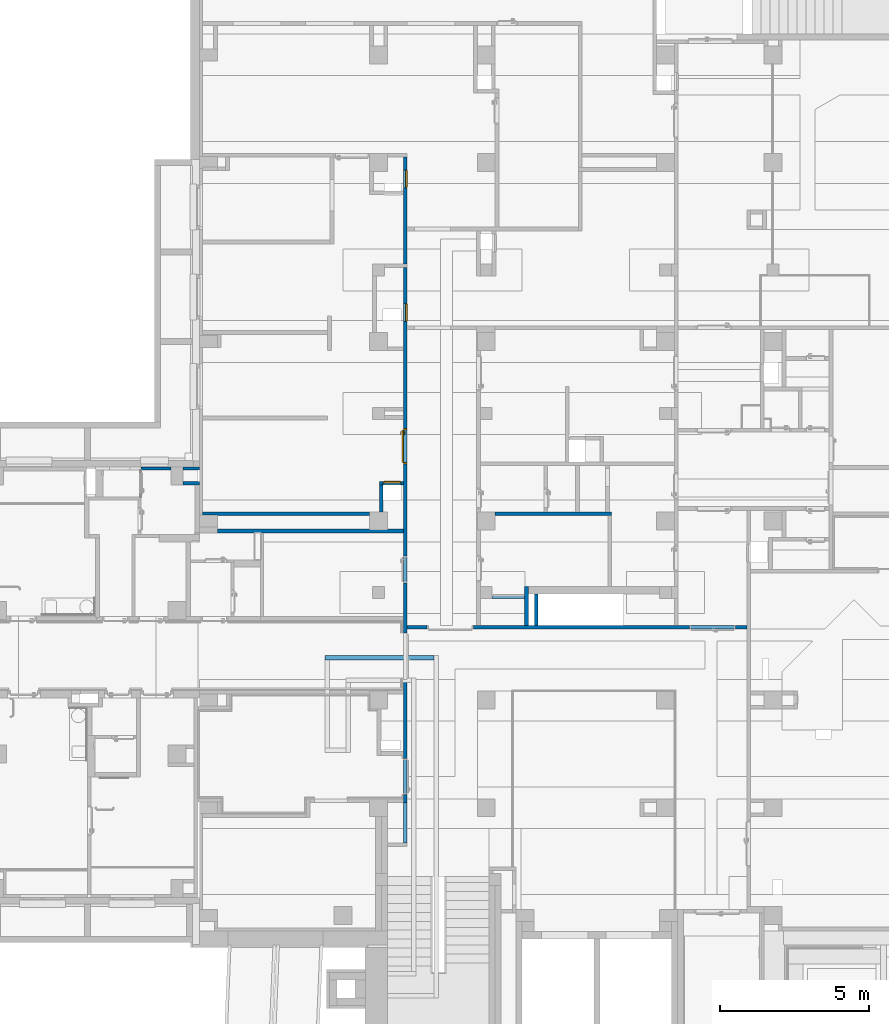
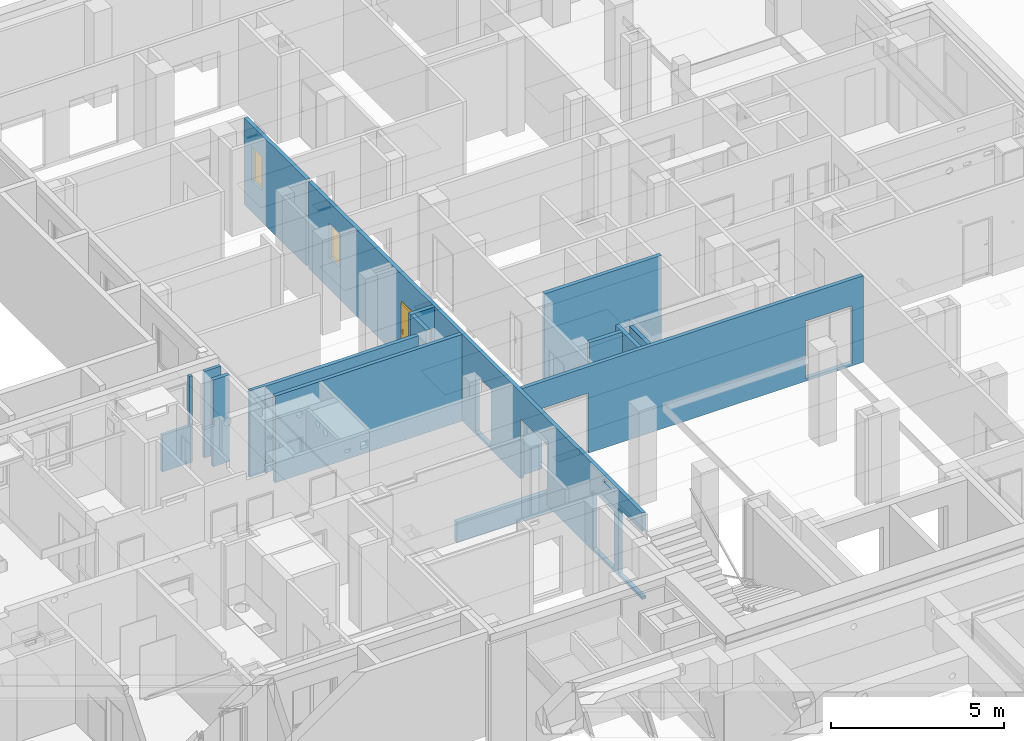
# One storey, part 29 of 84: 14 walls, 3 windows, 1 door, 13 openings.
"""IFC4 building model written with IfcOpenShell, lengths in metres."""

from ifc_helpers import new_model, entity, si_unit, converted_unit, derived_unit, frame, frame_2d, origin, origin_with_axes, place, context, subcontext, project, spatial, polyline, rectangle, outline, extrude, closed_shell, open_shell, faceted_brep, surface_model, source, transform, mapped, material, layer, layer_set, layer_usage, type_object, element, fill, save


model = new_model("IFC4")

# Units and contexts
model_context = context("Model", 3, precision=1e-05, world=origin())
body_context = subcontext(model_context, "Body", "Model", "MODEL_VIEW")
ifc_project = project(units=[si_unit("LENGTHUNIT", "METRE"), si_unit("AREAUNIT", "SQUARE_METRE"), si_unit("VOLUMEUNIT", "CUBIC_METRE"), si_unit("MASSUNIT", "GRAM", prefix="KILO"), converted_unit("PLANEANGLEUNIT", "DEGREE", entity("IfcPlaneAngleMeasure", 0.0174532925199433), si_unit("PLANEANGLEUNIT", "RADIAN"), dimensions=[0, 0, 0, 0, 0, 0, 0]), derived_unit("THERMALTRANSMITTANCEUNIT", [(si_unit("POWERUNIT", "WATT"), 1), (si_unit("THERMODYNAMICTEMPERATUREUNIT", "KELVIN"), -1), (si_unit("LENGTHUNIT", "METRE"), -2)]), derived_unit("VOLUMETRICFLOWRATEUNIT", [(si_unit("LENGTHUNIT", "METRE"), 3), (converted_unit("TIMEUNIT", "hour", entity("IfcTimeMeasure", 3600.0), si_unit("TIMEUNIT", "SECOND"), dimensions=[0, 0, 1, 0, 0, 0, 0]), -1), (si_unit("LENGTHUNIT", "METRE"), -1)])], contexts=[model_context])

# Site, building, storey
site_placement = place(None, origin())
site = spatial("IfcSite", under=ifc_project, at=site_placement, Name="3. ASŘ", CompositionType="ELEMENT")
building_placement = place(site_placement, origin())
building = spatial("IfcBuilding", under=site, at=building_placement, Name="Pavilon C", CompositionType="ELEMENT")
storey_placement = place(building_placement, frame((0.0, 0.0, -3.3)))
storey = spatial("IfcBuildingStorey", under=building, at=storey_placement, Name="Půdorys 1.PP", CompositionType="ELEMENT", Elevation=-3.3)

# Walls
ifc_material_1 = material(Name="PÓROBETONOVÉ ZDIVO")
ifc_layer_1 = layer(ifc_material_1, 0.1)
ifc_layer_set_1 = layer_set([ifc_layer_1])
ifc_layer_usage_1 = layer_usage(ifc_layer_set_1, "AXIS2", "POSITIVE", 0.0)
wall_1_placement = place(storey_placement, frame((24.75, 15.0, -0.1), z_axis=(0.0, 0.0, 1.0), x_axis=(-1.0, 0.0, 0.0)))
element("IfcWall", 1, at=wall_1_placement, inside=storey, material=ifc_layer_usage_1, Name="PÓROBETONOVÉ ZDIVO", context=body_context, shape_type="SweptSolid", body=[
    extrude(rectangle(XDim=0.55, YDim=0.1, at=frame_2d((0.275, 0.05), x_axis=(1.0, 0.0))), origin_with_axes(), (0.0, 0.0, 1.0), 3.05),
])
ifc_material_2 = material(Name="ZDIVO Z CDm")
ifc_layer_2 = layer(ifc_material_2, 0.125)
ifc_layer_set_2 = layer_set([ifc_layer_2])
ifc_layer_usage_2 = layer_usage(ifc_layer_set_2, "AXIS2", "POSITIVE", 0.0)
wall_2_placement = place(storey_placement, frame((24.2, 14.4, -0.1)))
element("IfcWall", 2, at=wall_2_placement, inside=storey, material=ifc_layer_usage_2, Name="ZDIVO Z CDm", context=body_context, shape_type="SweptSolid", body=[
    extrude(rectangle(XDim=0.550000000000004, YDim=0.125, at=frame_2d((0.275000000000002, 0.0625), x_axis=(1.0, 0.0))), origin_with_axes(), (0.0, 0.0, 1.0), 3.05),
])
ifc_material_3 = material(Name="ZELEZOBETONOVÁ KCE")
ifc_layer_3 = layer(ifc_material_3, 0.15)
ifc_layer_set_3 = layer_set([ifc_layer_3])
ifc_layer_usage_3 = layer_usage(ifc_layer_set_3, "AXIS2", "POSITIVE", 0.0)
wall_3_placement = place(storey_placement, frame((28.95, 8.55, -0.9)))
element("IfcWall", 3, at=wall_3_placement, inside=storey, material=ifc_layer_usage_3, Name="ZELEZOBETONOVÁ KCE", context=body_context, shape_type="SweptSolid", body=[
    extrude(rectangle(XDim=3.65, YDim=0.15, at=frame_2d((1.825, 0.075), x_axis=(1.0, 0.0))), origin_with_axes(), (0.0, 0.0, 1.0), 0.73),
])
ifc_material_4 = material(Name="ZDIVO Z CDm")
ifc_layer_4 = layer(ifc_material_4, 0.125)
ifc_layer_set_4 = layer_set([ifc_layer_4])
ifc_layer_usage_4 = layer_usage(ifc_layer_set_4, "AXIS2", "POSITIVE", 0.0)
wall_4_placement = place(storey_placement, frame((35.7625, 9.69999999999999, -0.1), z_axis=(0.0, 0.0, 1.0), x_axis=(0.0, 1.0, 0.0)))
element("IfcWall", 4, at=wall_4_placement, inside=storey, material=ifc_layer_usage_4, Name="ZDIVO Z CDm", context=body_context, shape_type="SweptSolid", body=[
    extrude(rectangle(XDim=1.3, YDim=0.125, at=frame_2d((0.65, 0.0625), x_axis=(1.0, 0.0))), origin_with_axes(), (0.0, 0.0, 1.0), 3.05),
])

# Wall, openings
ifc_material_5 = material(Name="ZDIVO Z CDm")
ifc_layer_5 = layer(ifc_material_5, 0.125)
ifc_layer_set_5 = layer_set([ifc_layer_5])
ifc_layer_usage_5 = layer_usage(ifc_layer_set_5, "AXIS2", "POSITIVE", 0.0)
wall_5_placement = place(storey_placement, frame((43.075, 9.69999999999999, -0.1), z_axis=(0.0, 0.0, 1.0), x_axis=(-1.0, 0.0, 0.0)))
wall_5 = element("IfcWall", 5, at=wall_5_placement, inside=storey, material=ifc_layer_usage_5, Name="ZDIVO Z CDm", context=body_context, shape_type="SweptSolid", body=[
    extrude(rectangle(XDim=11.375, YDim=0.125, at=frame_2d((5.6875, 0.0625), x_axis=(1.0, 0.0))), origin_with_axes(), (0.0, 0.0, 1.0), 3.05),
])
opening_1_placement = place(wall_5_placement, frame((10.7, 0.125, 0.0), z_axis=(0.0, -1.0, 0.0), x_axis=(0.0, 0.0, 1.0)))
element("IfcOpeningElement", 6, at=opening_1_placement, cuts=wall_5, Name="Dveřní otvor", ObjectType="Opening", context=body_context, shape_type="SweptSolid", body=[
    extrude(outline(polyline([(0.0, 1.55), (2.12, 1.55), (2.12, 0.0), (0.0, 0.0), (0.0, 1.55)])), origin_with_axes(), (0.0, 0.0, 1.0), 0.125),
])
opening_2_placement = place(wall_5_placement, frame((0.375, 0.0, 0.1), z_axis=(0.0, 1.0, 0.0), x_axis=(0.0, 0.0, 1.0)))
element("IfcOpeningElement", 7, at=opening_2_placement, cuts=wall_5, Name="Dveřní otvor", ObjectType="Opening", context=body_context, shape_type="SweptSolid", body=[
    extrude(outline(polyline([(0.0, 1.55), (2.02, 1.55), (2.02, 0.0), (0.0, 0.0), (0.0, 1.55)])), origin_with_axes(), (0.0, 0.0, 1.0), 0.125),
])

# Walls
ifc_material_6 = material(Name="ZDIVO Z CDm")
ifc_layer_6 = layer(ifc_material_6, 0.125)
ifc_layer_set_6 = layer_set([ifc_layer_6])
ifc_layer_usage_6 = layer_usage(ifc_layer_set_6, "AXIS2", "POSITIVE", 0.0)
wall_6_placement = place(storey_placement, frame((35.9625, 10.75, -0.1), z_axis=(0.0, 0.0, 1.0), x_axis=(0.0, -1.0, 0.0)))
element("IfcWall", 8, at=wall_6_placement, inside=storey, material=ifc_layer_usage_6, Name="ZDIVO Z CDm", context=body_context, shape_type="SweptSolid", body=[
    extrude(rectangle(XDim=1.05, YDim=0.125, at=frame_2d((0.525, 0.0625), x_axis=(1.0, 0.0))), origin_with_axes(), (0.0, 0.0, 1.0), 3.05),
])
ifc_material_7 = material(Name="ZDIVO Z CDm")
ifc_layer_7 = layer(ifc_material_7, 0.125)
ifc_layer_set_7 = layer_set([ifc_layer_7])
ifc_layer_usage_7 = layer_usage(ifc_layer_set_7, "AXIS2", "POSITIVE", 0.0)
wall_7_placement = place(storey_placement, frame((30.45, 13.5, -0.1), z_axis=(0.0, 0.0, 1.0), x_axis=(-1.0, 0.0, 0.0)))
element("IfcWall", 9, at=wall_7_placement, inside=storey, material=ifc_layer_usage_7, Name="ZDIVO Z CDm", context=body_context, shape_type="SweptSolid", body=[
    extrude(outline(polyline([(-5.59999999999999, -0.125), (0.0, -0.125), (0.0, -0.025), (-0.499999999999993, -0.025), (-0.499999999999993, 0.0), (-5.59999999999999, 0.0), (-5.59999999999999, -0.125)])), frame((5.59999999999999, 0.125, 0.0), z_axis=(0.0, 0.0, 1.0), x_axis=(1.0, 0.0, 0.0)), (0.0, 0.0, 1.0), 3.05),
])

# Wall, opening, window
ifc_material_8 = material(Name="ZDIVO Z CDm")
ifc_layer_8 = layer(ifc_material_8, 0.125)
ifc_layer_set_8 = layer_set([ifc_layer_8])
ifc_layer_usage_8 = layer_usage(ifc_layer_set_8, "AXIS2", "POSITIVE", 0.0)
wall_8_placement = place(storey_placement, frame((30.775, 14.4, -0.1)))
wall_8 = element("IfcWall", 10, at=wall_8_placement, inside=storey, material=ifc_layer_usage_8, Name="ZDIVO Z CDm", context=body_context, shape_type="SweptSolid", body=[
    extrude(rectangle(XDim=0.799999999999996, YDim=0.125, at=frame_2d((0.399999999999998, 0.0625), x_axis=(1.0, 0.0))), origin_with_axes(), (0.0, 0.0, 1.0), 3.05),
])
opening_3_placement = place(wall_8_placement, frame((0.725, 0.125, 1.1), z_axis=(0.0, -1.0, 0.0), x_axis=(0.0, 0.0, 1.0)))
opening_3 = element("IfcOpeningElement", 11, at=opening_3_placement, cuts=wall_8, Name="Okenní otvor", ObjectType="Opening", context=body_context, shape_type="SweptSolid", body=[
    extrude(outline(polyline([(0.0, 0.6), (1.2, 0.6), (1.2, 0.0), (0.0, 0.0), (0.0, 0.6)])), origin_with_axes(), (0.0, 0.0, 1.0), 0.125),
])
shared_shape_1 = source(origin_with_axes(), body_context, "Body", "Brep", [
    faceted_brep([(0.0, 0.0600000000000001, 1.2), (0.0, 0.06, 4.91096680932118e-19), (0.02, 0.06, 4.91096680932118e-19), (0.02, 0.0600000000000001, 1.2), (0.0, 0.01, 6.61433067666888e-18), (0.0, 0.0100000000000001, 1.2), (0.02, 0.0100000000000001, 1.2), (0.02, 0.01, 6.61433067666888e-18)], [[[0, 1, 2, 3]], [[4, 5, 6, 7]], [[1, 0, 5, 4]], [[2, 1, 4, 7]], [[3, 2, 7, 6]], [[0, 3, 6, 5]]], orient=[[False], [False], [False], [False], [False], [False]]),
    faceted_brep([(0.58, 0.0600000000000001, 1.2), (0.58, 0.06, 4.91096680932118e-19), (0.6, 0.06, 4.91096680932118e-19), (0.6, 0.0600000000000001, 1.2), (0.58, 0.01, 6.61433067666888e-18), (0.58, 0.0100000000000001, 1.2), (0.6, 0.0100000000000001, 1.2), (0.6, 0.01, 6.61433067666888e-18)], [[[0, 1, 2, 3]], [[4, 5, 6, 7]], [[1, 0, 5, 4]], [[2, 1, 4, 7]], [[3, 2, 7, 6]], [[0, 3, 6, 5]]], orient=[[False], [False], [False], [False], [False], [False]]),
    faceted_brep([(0.02, 0.06, 0.02), (0.02, 0.06, 4.91096680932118e-19), (0.58, 0.06, 4.91096680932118e-19), (0.58, 0.06, 0.02), (0.02, 0.01, 6.61433067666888e-18), (0.02, 0.01, 0.02), (0.58, 0.01, 0.02), (0.58, 0.01, 6.61433067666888e-18)], [[[0, 1, 2, 3]], [[4, 5, 6, 7]], [[1, 0, 5, 4]], [[2, 1, 4, 7]], [[3, 2, 7, 6]], [[0, 3, 6, 5]]], orient=[[False], [False], [False], [False], [False], [False]]),
    faceted_brep([(0.02, 0.0600000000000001, 1.2), (0.02, 0.0600000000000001, 1.18), (0.58, 0.0600000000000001, 1.18), (0.58, 0.0600000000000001, 1.2), (0.02, 0.0100000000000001, 1.18), (0.02, 0.0100000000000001, 1.2), (0.58, 0.0100000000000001, 1.2), (0.58, 0.0100000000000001, 1.18)], [[[0, 1, 2, 3]], [[4, 5, 6, 7]], [[1, 0, 5, 4]], [[2, 1, 4, 7]], [[3, 2, 7, 6]], [[0, 3, 6, 5]]], orient=[[False], [False], [False], [False], [False], [False]]),
    faceted_brep([(0.02, 0.0100000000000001, 1.18), (0.02, 0.01, 0.02), (0.58, 0.01, 0.02), (0.58, 0.0100000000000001, 1.18), (0.02, 0.0, 0.02), (0.02, 1.4210854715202e-16, 1.18), (0.58, 1.4210854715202e-16, 1.18), (0.58, 0.0, 0.02)], [[[0, 1, 2, 3]], [[4, 5, 6, 7]], [[1, 0, 5, 4]], [[2, 1, 4, 7]], [[3, 2, 7, 6]], [[0, 3, 6, 5]]], orient=[[False], [False], [False], [False], [False], [False]]),
])
window_1_placement = place(opening_3_placement, frame((0.0, 0.0, -0.01), z_axis=(1.0, 0.0, 0.0), x_axis=(0.0, 1.0, -1.22464679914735e-16)))
window_1 = element("IfcWindow", 12, at=window_1_placement, inside=storey, Name="O01", OverallHeight=1.2, OverallWidth=0.6, PartitioningType="USERDEFINED", PredefinedType="WINDOW", context=body_context, shape_type="MappedRepresentation", body=[
    mapped(shared_shape_1, transform((0.0, 0.0, 0.0), x_axis=(1.0, 0.0, 0.0), y_axis=(0.0, 1.0, 0.0), z_axis=(0.0, 0.0, 1.0), scale=1.0)),
])
fill(opening_3, window_1)

# Walls
ifc_material_9 = material(Name="ZDIVO Z CDm")
ifc_layer_9 = layer(ifc_material_9, 0.125)
ifc_layer_set_9 = layer_set([ifc_layer_9])
ifc_layer_usage_9 = layer_usage(ifc_layer_set_9, "AXIS2", "POSITIVE", 0.0)
wall_9_placement = place(storey_placement, frame((30.9, 13.5, -0.1), z_axis=(0.0, 0.0, 1.0), x_axis=(0.0, 1.0, 0.0)))
element("IfcWall", 13, at=wall_9_placement, inside=storey, material=ifc_layer_usage_9, Name="ZDIVO Z CDm", context=body_context, shape_type="SweptSolid", body=[
    extrude(rectangle(XDim=0.9, YDim=0.125, at=frame_2d((0.45, 0.0625), x_axis=(1.0, 0.0))), origin_with_axes(), (0.0, 0.0, 1.0), 3.05),
])
ifc_material_10 = material(Name="ZDIVO Z CDm")
ifc_layer_10 = layer(ifc_material_10, 0.125)
ifc_layer_set_10 = layer_set([ifc_layer_10])
ifc_layer_usage_10 = layer_usage(ifc_layer_set_10, "AXIS2", "POSITIVE", 0.0)
wall_10_placement = place(storey_placement, frame((31.575, 12.925, -0.1), z_axis=(0.0, 0.0, 1.0), x_axis=(-1.0, 0.0, 0.0)))
element("IfcWall", 14, at=wall_10_placement, inside=storey, material=ifc_layer_usage_10, Name="ZDIVO Z CDm", context=body_context, shape_type="SweptSolid", body=[
    extrude(rectangle(XDim=6.225, YDim=0.125, at=frame_2d((3.1125, 0.0625), x_axis=(1.0, 0.0))), origin_with_axes(), (0.0, 0.0, 1.0), 3.05),
])
ifc_material_11 = material(Name="ZDIVO Z CDm")
ifc_layer_11 = layer(ifc_material_11, 0.125)
ifc_layer_set_11 = layer_set([ifc_layer_11])
ifc_layer_usage_11 = layer_usage(ifc_layer_set_11, "AXIS2", "POSITIVE", 0.0)
wall_11_placement = place(storey_placement, frame((34.65, 13.375, -0.1)))
element("IfcWall", 15, at=wall_11_placement, inside=storey, material=ifc_layer_usage_11, Name="ZDIVO Z CDm", context=body_context, shape_type="SweptSolid", body=[
    extrude(rectangle(XDim=3.9, YDim=0.125, at=frame_2d((1.95, 0.0625), x_axis=(1.0, 0.0))), origin_with_axes(), (0.0, 0.0, 1.0), 3.05),
])

# Wall, opening
ifc_material_12 = material(Name="ZDIVO Z CDm")
ifc_layer_12 = layer(ifc_material_12, 0.125)
ifc_layer_set_12 = layer_set([ifc_layer_12])
ifc_layer_usage_12 = layer_usage(ifc_layer_set_12, "AXIS2", "POSITIVE", 0.0)
wall_12_placement = place(storey_placement, frame((34.55, 10.6, -0.1)))
wall_12 = element("IfcWall", 16, at=wall_12_placement, inside=storey, material=ifc_layer_usage_12, Name="ZDIVO Z CDm", context=body_context, shape_type="SweptSolid", body=[
    extrude(rectangle(XDim=1.0875, YDim=0.125, at=frame_2d((0.54375, 0.0625), x_axis=(1.0, 0.0))), origin_with_axes(), (0.0, 0.0, 1.0), 3.05),
])
opening_4_placement = place(wall_12_placement, frame((1.0875, 0.125, 1.1), z_axis=(0.0, -1.0, 0.0), x_axis=(0.0, 0.0, 1.0)))
element("IfcOpeningElement", 17, at=opening_4_placement, cuts=wall_12, Name="Okenní otvor", ObjectType="Opening", context=body_context, shape_type="SweptSolid", body=[
    extrude(outline(polyline([(0.0, 1.0875), (1.2, 1.0875), (1.2, 0.0), (0.0, 0.0), (0.0, 1.0875)])), origin_with_axes(), (0.0, 0.0, 1.0), 0.125),
])

# Wall, openings, door, windows
ifc_material_13 = material(Name="ZDIVO Z CDm")
wall_13_placement = place(storey_placement, frame((31.575, 25.375, -0.1), z_axis=(0.0, 0.0, 1.0), x_axis=(0.0, -1.0, 0.0)))
wall_13 = element("IfcWall", 18, at=wall_13_placement, inside=storey, material=ifc_material_13, Name="ZDIVO Z CDm", context=body_context, shape_type="SweptSolid", body=[
    extrude(rectangle(XDim=19.25, YDim=0.125, at=frame_2d((-9.625, -0.0625), x_axis=(-1.0, 0.0))), frame((22.95, 0.125, 0.0), z_axis=(0.0, 0.0, 1.0), x_axis=(1.0, 0.0, 0.0)), (0.0, 0.0, 1.0), 3.05),
    extrude(rectangle(XDim=3.575, YDim=0.125, at=frame_2d((1.7875, 0.0625), x_axis=(1.0, 0.0))), origin_with_axes(), (0.0, 0.0, 1.0), 3.05),
])
opening_5_placement = place(wall_13_placement, frame((15.925, 0.0, 0.0), z_axis=(0.0, 1.0, 0.0), x_axis=(0.0, 0.0, 1.0)))
element("IfcOpeningElement", 19, at=opening_5_placement, cuts=wall_13, Name="Dveřní otvor", ObjectType="Opening", context=body_context, shape_type="SweptSolid", body=[
    extrude(outline(polyline([(0.0, 1.55), (2.12, 1.55), (2.12, 0.0), (0.0, 0.0), (0.0, 1.55)])), origin_with_axes(), (0.0, 0.0, 1.0), 0.125),
])
opening_6_placement = place(wall_13_placement, frame((22.95, 0.125, 0.1), z_axis=(0.0, -1.0, 0.0), x_axis=(0.0, 0.0, 1.0)))
element("IfcOpeningElement", 20, at=opening_6_placement, cuts=wall_13, Name="Dveřní otvor", ObjectType="Opening", context=body_context, shape_type="SweptSolid", body=[
    extrude(outline(polyline([(0.0, 1.35), (2.3, 1.35), (2.3, 0.0), (0.0, 0.0), (0.0, 1.35)])), origin_with_axes(), (0.0, 0.0, 1.0), 0.125),
])
opening_7_placement = place(wall_13_placement, frame((9.07500000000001, 0.0, 0.1), z_axis=(0.0, 1.0, 0.0), x_axis=(0.0, 0.0, 1.0)))
opening_7 = element("IfcOpeningElement", 21, at=opening_7_placement, cuts=wall_13, Name="Dveřní otvor", ObjectType="Opening", context=body_context, shape_type="SweptSolid", body=[
    extrude(outline(polyline([(0.0, 1.2), (2.02, 1.2), (2.02, 0.0), (0.0, 0.0), (0.0, 1.2)])), origin_with_axes(), (0.0, 0.0, 1.0), 0.125),
])
opening_8_placement = place(wall_13_placement, frame((13.35, 0.0, 0.1), z_axis=(0.0, 1.0, 0.0), x_axis=(0.0, 0.0, 1.0)))
element("IfcOpeningElement", 22, at=opening_8_placement, cuts=wall_13, Name="Dveřní otvor", ObjectType="Opening", context=body_context, shape_type="SweptSolid", body=[
    extrude(outline(polyline([(0.0, 0.9), (2.02, 0.9), (2.02, 0.0), (0.0, 0.0), (0.0, 0.9)])), origin_with_axes(), (0.0, 0.0, 1.0), 0.125),
])
opening_9_placement = place(wall_13_placement, frame((1.025, 0.125, 1.1), z_axis=(0.0, -1.0, 0.0), x_axis=(0.0, 0.0, 1.0)))
opening_9 = element("IfcOpeningElement", 23, at=opening_9_placement, cuts=wall_13, Name="Okenní otvor", ObjectType="Opening", context=body_context, shape_type="SweptSolid", body=[
    extrude(outline(polyline([(0.0, 0.6), (1.2, 0.6), (1.2, 0.0), (0.0, 0.0), (0.0, 0.6)])), origin_with_axes(), (0.0, 0.0, 1.0), 0.125),
])
opening_10_placement = place(wall_13_placement, frame((5.5, 0.125, 1.1), z_axis=(0.0, -1.0, 0.0), x_axis=(0.0, 0.0, 1.0)))
opening_10 = element("IfcOpeningElement", 24, at=opening_10_placement, cuts=wall_13, Name="Okenní otvor", ObjectType="Opening", context=body_context, shape_type="SweptSolid", body=[
    extrude(outline(polyline([(0.0, 0.6), (1.2, 0.6), (1.2, 0.0), (0.0, 0.0), (0.0, 0.6)])), origin_with_axes(), (0.0, 0.0, 1.0), 0.125),
])
opening_11_placement = place(wall_13_placement, frame((21.325, 0.125, 0.1), z_axis=(0.0, -1.0, 0.0), x_axis=(0.0, 0.0, 1.0)))
element("IfcOpeningElement", 25, at=opening_11_placement, cuts=wall_13, Name="Dveřní otvor", ObjectType="Opening", context=body_context, shape_type="SweptSolid", body=[
    extrude(outline(polyline([(0.0, 1.2), (2.02, 1.2), (2.02, 0.0), (0.0, 0.0), (0.0, 1.2)])), origin_with_axes(), (0.0, 0.0, 1.0), 0.125),
])
opening_12_placement = place(wall_13_placement, frame((21.3498613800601, 0.125, 2.8), z_axis=(0.0, -1.0, 0.0), x_axis=(0.0, 0.0, 1.0)))
element("IfcOpeningElement", 26, at=opening_12_placement, cuts=wall_13, Name="UT", ObjectType="Opening", context=body_context, shape_type="SweptSolid", body=[
    extrude(outline(polyline([(0.0, 0.599999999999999), (0.15, 0.599999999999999), (0.15, 0.0), (0.0, 0.0), (0.0, 0.599999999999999)])), origin_with_axes(), (0.0, 0.0, 1.0), 0.125),
])
door_type = type_object("IfcDoorType", Name="D101", OperationType="NOTDEFINED", ParameterTakesPrecedence=False, PredefinedType="DOOR")
shared_shape_2 = source(origin_with_axes(), body_context, "Body", "SurfaceModel", [
    surface_model("IfcShellBasedSurfaceModel", [(0.0, 0.125, 2.02), (0.0, 0.125, -7.65404249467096e-18), (0.05, 0.125, -7.65404249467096e-18), (0.05, 0.125, 2.02), (0.0, 0.0, 7.65404249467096e-18), (0.0, 2.41584530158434e-16, 2.02), (0.05, 2.41584530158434e-16, 2.02), (0.05, 0.0, 7.65404249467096e-18)], [closed_shell([[[0, 1, 2, 3]], [[4, 5, 6, 7]], [[1, 0, 5, 4]], [[2, 1, 4, 7]], [[3, 2, 7, 6]], [[0, 3, 6, 5]]], orient=[[False], [False], [False], [False], [False], [False]])]),
    surface_model("IfcShellBasedSurfaceModel", [(1.15, 0.125, 2.02), (1.15, 0.125, -7.65404249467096e-18), (1.2, 0.125, -7.65404249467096e-18), (1.2, 0.125, 2.02), (1.15, 0.0, 7.65404249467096e-18), (1.15, 2.41584530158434e-16, 2.02), (1.2, 2.41584530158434e-16, 2.02), (1.2, 0.0, 7.65404249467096e-18)], [closed_shell([[[0, 1, 2, 3]], [[4, 5, 6, 7]], [[1, 0, 5, 4]], [[2, 1, 4, 7]], [[3, 2, 7, 6]], [[0, 3, 6, 5]]], orient=[[False], [False], [False], [False], [False], [False]])]),
    surface_model("IfcShellBasedSurfaceModel", [(0.05, 0.125, 2.02), (0.05, 0.125, 1.97), (1.15, 0.125, 1.97), (1.15, 0.125, 2.02), (0.05, 2.41584530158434e-16, 1.97), (0.05, 2.41584530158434e-16, 2.02), (1.15, 2.41584530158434e-16, 2.02), (1.15, 2.41584530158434e-16, 1.97)], [closed_shell([[[0, 1, 2, 3]], [[4, 5, 6, 7]], [[1, 0, 5, 4]], [[2, 1, 4, 7]], [[3, 2, 7, 6]], [[0, 3, 6, 5]]], orient=[[False], [False], [False], [False], [False], [False]])]),
    surface_model("IfcShellBasedSurfaceModel", [(0.05, 0.165, 1.97), (0.05, 0.165, -1.25526296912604e-17), (1.15, 0.165, -1.25526296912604e-17), (1.15, 0.165, 1.97), (0.05, 0.125, -7.65404249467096e-18), (0.05, 0.125, 1.97), (1.15, 0.125, 1.97), (1.15, 0.125, -7.65404249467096e-18)], [closed_shell([[[0, 1, 2, 3]], [[4, 5, 6, 7]], [[1, 0, 5, 4]], [[2, 1, 4, 7]], [[3, 2, 7, 6]], [[0, 3, 6, 5]]], orient=[[False], [False], [False], [False], [False], [False]])]),
    surface_model("IfcShellBasedSurfaceModel", [(1.06, 0.125, 1.125), (1.06, 0.125, 0.91), (1.11, 0.125, 0.91), (1.11, 0.125, 1.125), (1.06, 0.115, 0.91), (1.06, 0.115, 1.125), (1.11, 0.115, 1.125), (1.11, 0.115, 0.91)], [closed_shell([[[0, 1, 2, 3]], [[4, 5, 6, 7]], [[1, 0, 5, 4]], [[2, 1, 4, 7]], [[3, 2, 7, 6]], [[0, 3, 6, 5]]], orient=[[False], [False], [False], [False], [False], [False]])]),
    surface_model("IfcShellBasedSurfaceModel", [(1.085, 0.115, 1.06), (1.08, 0.115, 1.05866025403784), (1.07633974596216, 0.115, 1.055), (1.075, 0.115, 1.05), (1.07633974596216, 0.115, 1.045), (1.08, 0.115, 1.04133974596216), (1.085, 0.115, 1.04), (1.09, 0.115, 1.04133974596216), (1.09366025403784, 0.115, 1.045), (1.095, 0.115, 1.05), (1.09366025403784, 0.115, 1.055), (1.09, 0.115, 1.05866025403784), (1.09, 0.0700000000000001, 1.05866025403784), (1.085, 0.0750000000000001, 1.06), (1.09366025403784, 0.0663397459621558, 1.055), (1.095, 0.0650000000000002, 1.05), (1.09366025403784, 0.0663397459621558, 1.045), (1.09, 0.0700000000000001, 1.04133974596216), (1.085, 0.0750000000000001, 1.04), (1.08, 0.0800000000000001, 1.04133974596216), (1.07633974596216, 0.0836602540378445, 1.045), (1.075, 0.0850000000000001, 1.05), (1.07633974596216, 0.0836602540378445, 1.055), (1.08, 0.0800000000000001, 1.05866025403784), (0.97, 0.0700000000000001, 1.05866025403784), (0.97, 0.0750000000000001, 1.06), (0.97, 0.0663397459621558, 1.055), (0.97, 0.0650000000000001, 1.05), (0.97, 0.0663397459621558, 1.045), (0.97, 0.0700000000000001, 1.04133974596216), (0.97, 0.0750000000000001, 1.04), (0.97, 0.0800000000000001, 1.04133974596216), (0.97, 0.0836602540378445, 1.045), (0.97, 0.0850000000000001, 1.05), (0.97, 0.0836602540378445, 1.055), (0.97, 0.0800000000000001, 1.05866025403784)], [open_shell([[[0, 1, 2, 3, 4, 5, 6, 7, 8, 9, 10, 11]], [[0, 11, 12, 13]], [[11, 10, 14, 12]], [[10, 9, 15, 14]], [[9, 8, 16, 15]], [[8, 7, 17, 16]], [[7, 6, 18, 17]], [[6, 5, 19, 18]], [[5, 4, 20, 19]], [[4, 3, 21, 20]], [[3, 2, 22, 21]], [[2, 1, 23, 22]], [[1, 0, 13, 23]], [[13, 12, 24, 25]], [[12, 14, 26, 24]], [[14, 15, 27, 26]], [[15, 16, 28, 27]], [[16, 17, 29, 28]], [[17, 18, 30, 29]], [[18, 19, 31, 30]], [[19, 20, 32, 31]], [[20, 21, 33, 32]], [[21, 22, 34, 33]], [[22, 23, 35, 34]], [[23, 13, 25, 35]]], orient=[[False], [False], [False], [False], [False], [False], [False], [False], [False], [False], [False], [False], [False], [False], [False], [False], [False], [False], [False], [False], [False], [False], [False], [False], [False]])]),
    surface_model("IfcShellBasedSurfaceModel", [(1.06, 0.165, 1.125), (1.11, 0.165, 1.125), (1.11, 0.165, 0.91), (1.06, 0.165, 0.91), (1.06, 0.175, 0.91), (1.11, 0.175, 0.91), (1.11, 0.175, 1.125), (1.06, 0.175, 1.125)], [closed_shell([[[0, 1, 2, 3]], [[4, 5, 6, 7]], [[3, 4, 7, 0]], [[2, 5, 4, 3]], [[1, 6, 5, 2]], [[0, 7, 6, 1]]], orient=[[False], [False], [False], [False], [False], [False]])]),
    surface_model("IfcShellBasedSurfaceModel", [(1.085, 0.175, 1.06), (1.09, 0.175, 1.05866025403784), (1.09366025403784, 0.175, 1.055), (1.095, 0.175, 1.05), (1.09366025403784, 0.175, 1.045), (1.09, 0.175, 1.04133974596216), (1.085, 0.175, 1.04), (1.08, 0.175, 1.04133974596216), (1.07633974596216, 0.175, 1.045), (1.075, 0.175, 1.05), (1.07633974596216, 0.175, 1.055), (1.08, 0.175, 1.05866025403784), (1.085, 0.215, 1.06), (1.09, 0.22, 1.05866025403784), (1.09366025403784, 0.223660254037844, 1.055), (1.095, 0.225, 1.05), (1.09366025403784, 0.223660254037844, 1.045), (1.09, 0.22, 1.04133974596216), (1.085, 0.215, 1.04), (1.08, 0.21, 1.04133974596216), (1.07633974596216, 0.206339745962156, 1.045), (1.075, 0.205, 1.05), (1.07633974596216, 0.206339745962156, 1.055), (1.08, 0.21, 1.05866025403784), (0.97, 0.215, 1.06), (0.97, 0.22, 1.05866025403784), (0.97, 0.223660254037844, 1.055), (0.97, 0.225, 1.05), (0.97, 0.223660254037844, 1.045), (0.97, 0.22, 1.04133974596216), (0.97, 0.215, 1.04), (0.97, 0.21, 1.04133974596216), (0.97, 0.206339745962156, 1.045), (0.97, 0.205, 1.05), (0.97, 0.206339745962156, 1.055), (0.97, 0.21, 1.05866025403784)], [open_shell([[[0, 1, 2, 3, 4, 5, 6, 7, 8, 9, 10, 11]], [[0, 12, 13, 1]], [[1, 13, 14, 2]], [[2, 14, 15, 3]], [[3, 15, 16, 4]], [[4, 16, 17, 5]], [[5, 17, 18, 6]], [[6, 18, 19, 7]], [[7, 19, 20, 8]], [[8, 20, 21, 9]], [[9, 21, 22, 10]], [[10, 22, 23, 11]], [[11, 23, 12, 0]], [[12, 24, 25, 13]], [[13, 25, 26, 14]], [[14, 26, 27, 15]], [[15, 27, 28, 16]], [[16, 28, 29, 17]], [[17, 29, 30, 18]], [[18, 30, 31, 19]], [[19, 31, 32, 20]], [[20, 32, 33, 21]], [[21, 33, 34, 22]], [[22, 34, 35, 23]], [[23, 35, 24, 12]]], orient=[[False], [False], [False], [False], [False], [False], [False], [False], [False], [False], [False], [False], [False], [False], [False], [False], [False], [False], [False], [False], [False], [False], [False], [False], [False]])]),
])
door_placement = place(opening_7_placement, frame((0.0, 1.20000000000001, 0.124999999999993), z_axis=(1.0, 0.0, 0.0), x_axis=(0.0, -1.0, 1.22464679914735e-16)))
door = element("IfcDoor", 27, at=door_placement, inside=storey, type_object=door_type, Name="D101", OverallHeight=2.02, OverallWidth=1.2, context=body_context, shape_type="MappedRepresentation", body=[
    mapped(shared_shape_2, transform((0.0, 0.0, 0.0), x_axis=(1.0, 0.0, 0.0), y_axis=(0.0, 1.0, 0.0), z_axis=(0.0, 0.0, 1.0), scale=1.0)),
])
fill(opening_7, door)
window_2_placement = place(opening_9_placement, frame((0.0, -7.27595761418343e-15, -0.00999999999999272), z_axis=(1.0, 0.0, 0.0), x_axis=(0.0, 1.0, -1.22464679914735e-16)))
window_2 = element("IfcWindow", 28, at=window_2_placement, inside=storey, Name="O01", OverallHeight=1.2, OverallWidth=0.6, PartitioningType="USERDEFINED", PredefinedType="WINDOW", context=body_context, shape_type="MappedRepresentation", body=[
    mapped(shared_shape_1, transform((0.0, 0.0, 0.0), x_axis=(1.0, 0.0, 0.0), y_axis=(0.0, 1.0, 0.0), z_axis=(0.0, 0.0, 1.0), scale=1.0)),
])
fill(opening_9, window_2)
window_3_placement = place(opening_10_placement, frame((0.0, -7.27595761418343e-15, -0.00999999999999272), z_axis=(1.0, 0.0, 0.0), x_axis=(0.0, 1.0, -1.22464679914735e-16)))
window_3 = element("IfcWindow", 29, at=window_3_placement, inside=storey, Name="O01", OverallHeight=1.2, OverallWidth=0.6, PartitioningType="USERDEFINED", PredefinedType="WINDOW", context=body_context, shape_type="MappedRepresentation", body=[
    mapped(shared_shape_1, transform((0.0, 0.0, 0.0), x_axis=(1.0, 0.0, 0.0), y_axis=(0.0, 1.0, 0.0), z_axis=(0.0, 0.0, 1.0), scale=1.0)),
])
fill(opening_10, window_3)

# Wall, opening
ifc_material_14 = material(Name="PÓROBETONOVÉ ZDIVO")
ifc_layer_13 = layer(ifc_material_14, 0.1)
ifc_layer_set_13 = layer_set([ifc_layer_13])
ifc_layer_usage_13 = layer_usage(ifc_layer_set_13, "AXIS2", "POSITIVE", 0.0)
wall_14_placement = place(storey_placement, frame((23.8, 15.0, -0.1), z_axis=(0.0, 0.0, 1.0), x_axis=(-1.0, 0.0, 0.0)))
wall_14 = element("IfcWall", 30, at=wall_14_placement, inside=storey, material=ifc_layer_usage_13, Name="PÓROBETONOVÉ ZDIVO", context=body_context, shape_type="SweptSolid", body=[
    extrude(rectangle(XDim=1.0, YDim=0.1, at=frame_2d((0.5, 0.05), x_axis=(1.0, 0.0))), origin_with_axes(), (0.0, 0.0, 1.0), 3.05),
])
opening_13_placement = place(wall_14_placement, frame((1.0, 0.1, 1.3), z_axis=(0.0, -1.0, 0.0), x_axis=(0.0, 0.0, 1.0)))
element("IfcOpeningElement", 31, at=opening_13_placement, cuts=wall_14, Name="Okenní otvor", ObjectType="Opening", context=body_context, shape_type="SweptSolid", body=[
    extrude(outline(polyline([(0.0, 0.9), (1.75, 0.9), (1.75, 0.0), (0.0, 0.0), (0.0, 0.9)])), origin_with_axes(), (0.0, 0.0, 1.0), 0.1),
])

save(model, "model.ifc")
